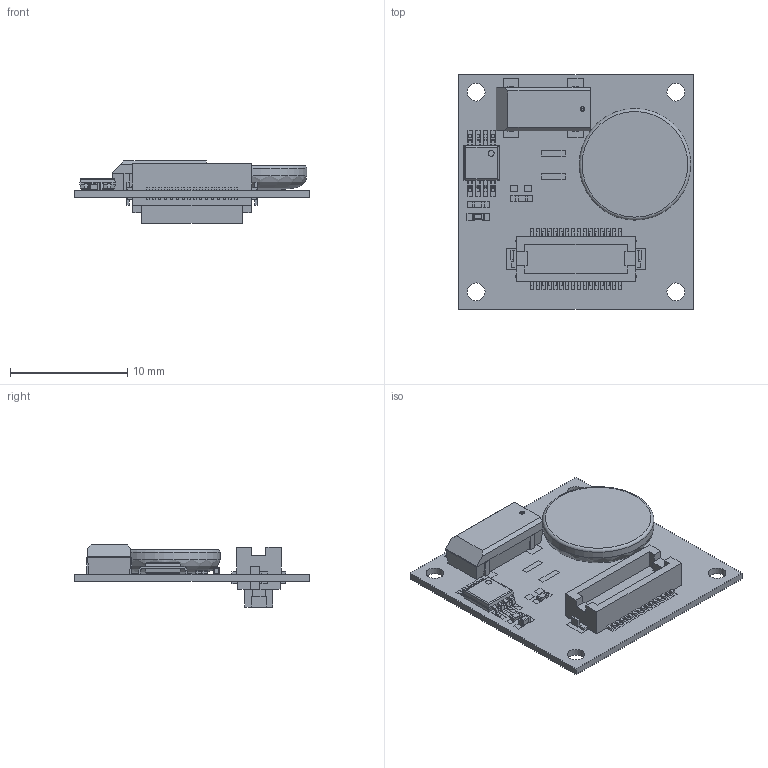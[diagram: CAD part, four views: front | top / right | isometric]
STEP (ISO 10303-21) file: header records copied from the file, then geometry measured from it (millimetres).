
FILE_DESCRIPTION(('FreeCAD Model'),'2;1');
FILE_NAME('/home/devy/MEGA/TinyCircuits/Assets/BoardsANDBoardModels_2/Shields/TinyCircuits-TinyShield-RTC-ASD2831/cad/TinyShield_RTC_ASD2831_REV4-STEP.step','2020-07-21T00:06:18',('Author'),(''), 'Open CASCADE STEP processor 7.4','FreeCAD','Unknown');
FILE_SCHEMA(('AUTOMOTIVE_DESIGN { 1 0 10303 214 1 1 1 1 }'));
Products named in the file (1): TinyShield_RTC_ASD2831_REV4-STEP
Bounding box: 20 x 20 x 5.3 mm (x, y, z)
Volume: 1068.8 mm3; surface area: 3086.8 mm2
Topology: 213 solids, 213 shells, 2328 faces, 5614 edges, 3992 vertices
Faces by surface type: plane 2160, cylinder 146, sphere 16, torus 4, revolution 2
Full cylindrical faces by diameter (mm): 0.5 x6, 0.652 x8, 1.502 x8, 5 x2, 9.5 x2
Entity records: 154199 total; most frequent: CARTESIAN_POINT 24437, DIRECTION 20956, LINE 15358, VECTOR 15358, ORIENTED_EDGE 10588, PCURVE 10588, DEFINITIONAL_REPRESENTATION 10588, EDGE_CURVE 5294
